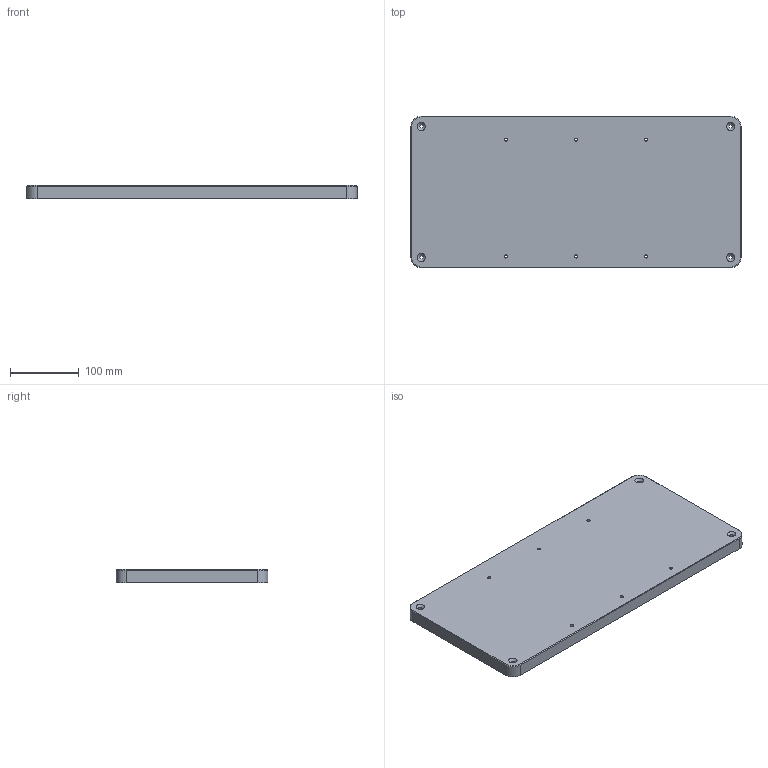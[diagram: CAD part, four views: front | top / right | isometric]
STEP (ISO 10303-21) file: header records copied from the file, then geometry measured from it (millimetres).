
FILE_DESCRIPTION (( 'STEP AP214' ), '1' );
FILE_NAME ('MONO_038-p115_01.STEP', '2025-10-01T01:07:30', ( '' ), ( '' ), 'SwSTEP 2.0', 'SolidWorks 2024', '' );
FILE_SCHEMA (( 'AUTOMOTIVE_DESIGN' ));
Length unit declared in the file: millimetre
Products named in the file (1): MONO_038-p115_01
Bounding box: 480 x 220.5 x 19 mm (x, y, z)
Volume: 2002476.2 mm3; surface area: 239083.8 mm2
Topology: 1 solids, 1 shells, 32 faces, 78 edges, 48 vertices
Faces by surface type: cylinder 14, plane 10, cone 8
Full cylindrical faces by diameter (mm): 4.5 x6, 5.5 x4
Entity records: 935 total; most frequent: DIRECTION 166, CARTESIAN_POINT 145, ORIENTED_EDGE 128, AXIS2_PLACEMENT_3D 69, EDGE_LOOP 66, EDGE_CURVE 64, VERTEX_POINT 48, FACE_OUTER_BOUND 42
